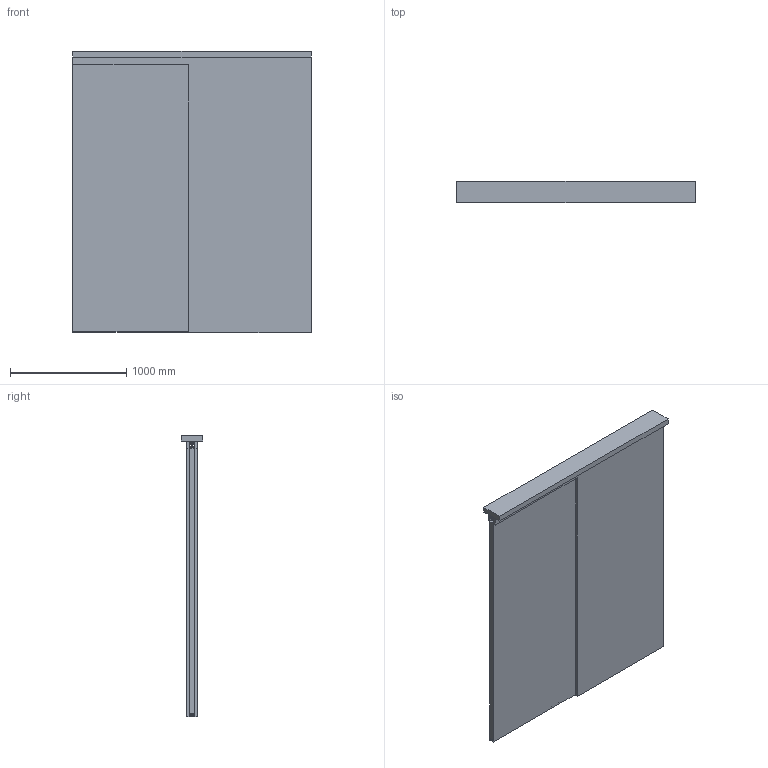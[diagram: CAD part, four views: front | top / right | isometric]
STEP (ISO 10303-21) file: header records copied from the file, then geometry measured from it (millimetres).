
FILE_DESCRIPTION(('STEP AP242'),'1');
FILE_NAME('OPO_65.080.01.stp','2026-01-14T05:23:02',(' '),(' '),'Spatial InterOp 3D',' ',' ');
FILE_SCHEMA(('AP242_MANAGED_MODEL_BASED_3D_ENGINEERING_MIM_LF {1 0 10303 442 1 1 4}'));
Length unit declared in the file: millimetre
Products named in the file (9): Zeichnung2; OPO_65.080.01_Aufhaengung_Holz; OPO_65.082.78; OPO_65.080.01_Laufwerk; OPO_65.080.01_Laufwerk_mit_Daempfer; OPO_65.080.01_Bodenfuehrung_Holz; OPO_65.080.01_Aktivator; OPO_65.082.61; AutoCreatedBlock_1C9
Assembly tree (11 placements, depth 2):
  Zeichnung2
    OPO_65.080.01_Aufhaengung_Holz  x2
    OPO_65.082.78  x2
    OPO_65.080.01_Laufwerk
    OPO_65.080.01_Laufwerk_mit_Daempfer
    OPO_65.080.01_Bodenfuehrung_Holz
    OPO_65.080.01_Aktivator  x2
    OPO_65.082.61
    AutoCreatedBlock_1C9
Bounding box: 2050.5 x 188 x 2418 mm (x, y, z)
Volume: 214245784.2 mm3; surface area: 17442799.5 mm2
Topology: 78 solids, 78 shells, 1503 faces, 3847 edges, 2538 vertices
Faces by surface type: plane 847, cylinder 628, cone 28
Entity records: 43394 total; most frequent: DIRECTION 6091, CARTESIAN_POINT 6058, ORIENTED_EDGE 5646, EDGE_CURVE 2823, AXIS2_PLACEMENT_3D 2139, VERTEX_POINT 1868, LINE 1813, VECTOR 1813
